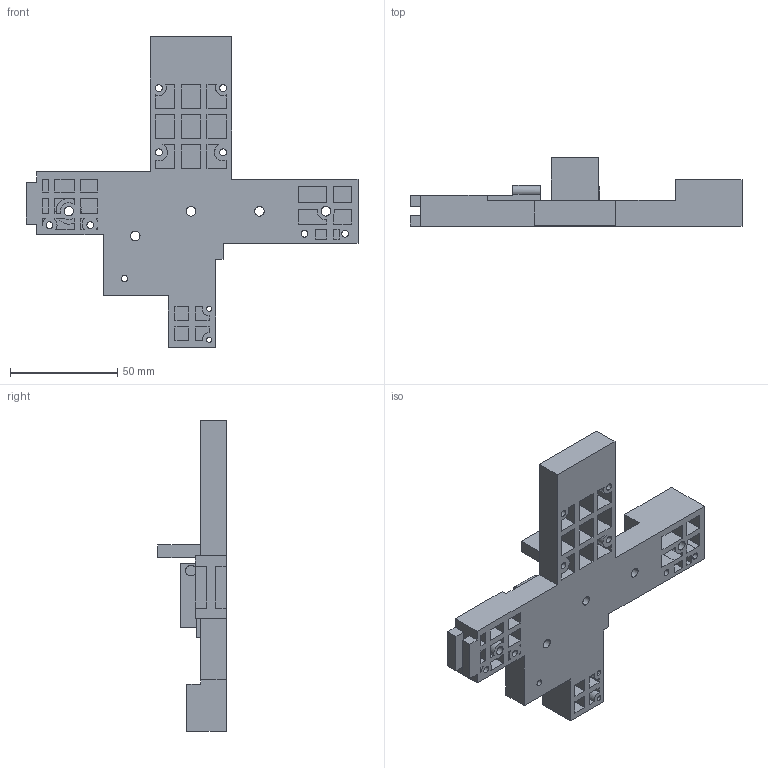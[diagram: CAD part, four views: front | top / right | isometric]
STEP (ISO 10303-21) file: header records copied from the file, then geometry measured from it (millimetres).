
FILE_DESCRIPTION(('CATIA V5 STEP Exchange'),'2;1');
FILE_NAME('G:\够快云库\系统集成开发部\1.部门成员\孙国\3D-stp打印件\1222\GZ-QM01_V1-3TD 固定座.stp','2020-12-22T08:41:07+00:00',('none'),('none'),'CATIA Version 5 Release 20 GA (IN-10)','CATIA V5 STEP AP203','none');
FILE_SCHEMA(('CONFIG_CONTROL_DESIGN'));
Length unit declared in the file: millimetre
Products named in the file (1): 固定座
Bounding box: 155 x 32 x 145 mm (x, y, z)
Volume: 103643.7 mm3; surface area: 42288.3 mm2
Topology: 1 solids, 1 shells, 316 faces, 856 edges, 579 vertices
Faces by surface type: plane 235, cylinder 81
Entity records: 9068 total; most frequent: ORIENTED_EDGE 1712, CARTESIAN_POINT 1638, DIRECTION 1146, EDGE_CURVE 856, VECTOR 677, LINE 677, VERTEX_POINT 579, EDGE_LOOP 385
